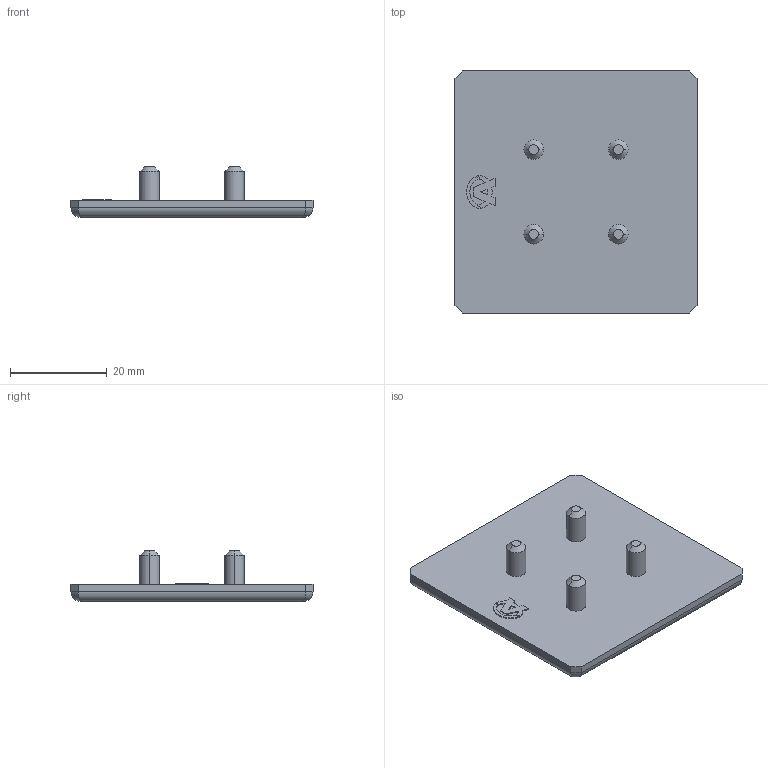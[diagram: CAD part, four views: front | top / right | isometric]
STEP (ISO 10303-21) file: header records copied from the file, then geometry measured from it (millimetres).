
FILE_DESCRIPTION (( 'STEP AP214' ), '1' );
FILE_NAME ('084.201.070.STEP', '2021-02-05T10:13:26', ( '' ), ( '' ), 'SwSTEP 2.0', 'SolidWorks 2018', '' );
FILE_SCHEMA (( 'AUTOMOTIVE_DESIGN' ));
Length unit declared in the file: millimetre
Products named in the file (1): 084.201.070
Bounding box: 50 x 50 x 10.5 mm (x, y, z)
Volume: 8903.7 mm3; surface area: 5834.8 mm2
Topology: 1 solids, 1 shells, 79 faces, 194 edges, 124 vertices
Faces by surface type: plane 46, cylinder 25, cone 8
Entity records: 2336 total; most frequent: CARTESIAN_POINT 422, DIRECTION 388, ORIENTED_EDGE 388, EDGE_CURVE 194, VECTOR 144, LINE 144, VERTEX_POINT 124, AXIS2_PLACEMENT_3D 122
